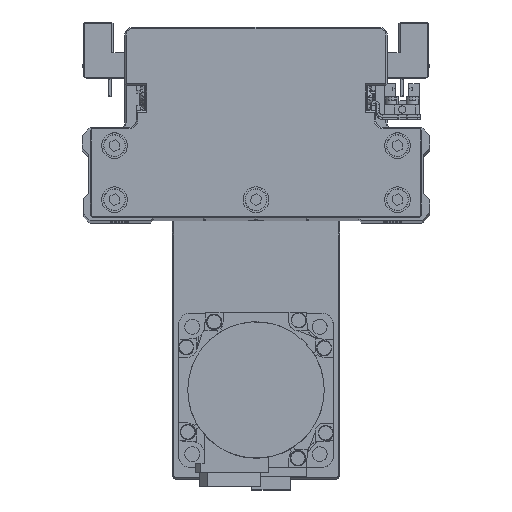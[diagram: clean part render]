
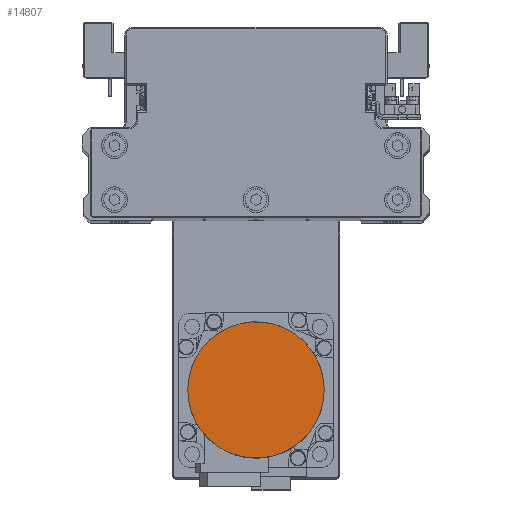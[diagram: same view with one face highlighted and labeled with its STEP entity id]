
A CAD part, top view. The second image highlights one B-rep face of the part: STEP entity #14807.
In plain terms, the highlighted planar face has unit normal (0, 0, 1) as drawn and (0, 0, -1) by its records, which use the part's own axes.
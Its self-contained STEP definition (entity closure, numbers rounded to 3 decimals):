
#505 = CARTESIAN_POINT ( 'NONE',  ( 22.998, 13.28, -109.7 ) ) ;
#724 = CARTESIAN_POINT ( 'NONE',  ( -6.871, 25.652, -109.7 ) ) ;
#932 = CARTESIAN_POINT ( 'NONE',  ( -26.5, 1.734, -109.7 ) ) ;
#2532 = CARTESIAN_POINT ( 'NONE',  ( -13.28, -22.998, -109.7 ) ) ;
#2752 = CARTESIAN_POINT ( 'NONE',  ( 17.512, -19.965, -109.7 ) ) ;
#3580 = CARTESIAN_POINT ( 'NONE',  ( 25.652, 6.871, -109.7 ) ) ;
#3773 = CARTESIAN_POINT ( 'NONE',  ( 1.734, 26.5, -109.7 ) ) ;
#3989 = CARTESIAN_POINT ( 'NONE',  ( -25.147, 8.539, -109.7 ) ) ;
#5606 = CARTESIAN_POINT ( 'NONE',  ( -19.965, -17.512, -109.7 ) ) ;
#5798 = CARTESIAN_POINT ( 'NONE',  ( 11.744, -23.819, -109.7 ) ) ;
#6648 = CARTESIAN_POINT ( 'NONE',  ( 26.5, 0., -109.7 ) ) ;
#6844 = CARTESIAN_POINT ( 'NONE',  ( 8.539, 25.147, -109.7 ) ) ;
#7036 = CARTESIAN_POINT ( 'NONE',  ( -21.07, 16.165, -109.7 ) ) ;
#8676 = CARTESIAN_POINT ( 'NONE',  ( -23.819, -11.744, -109.7 ) ) ;
#8861 = CARTESIAN_POINT ( 'NONE',  ( 3.469, -26.329, -109.7 ) ) ;
#9056 = CARTESIAN_POINT ( 'NONE',  ( 26.329, -3.469, -109.7 ) ) ;
#9836 = CARTESIAN_POINT ( 'NONE',  ( 0., 0., -109.7 ) ) ;
#9909 = CARTESIAN_POINT ( 'NONE',  ( 16.165, 21.07, -109.7 ) ) ;
#10099 = CARTESIAN_POINT ( 'NONE',  ( -16.165, 21.07, -109.7 ) ) ;
#11726 = CARTESIAN_POINT ( 'NONE',  ( -26.329, -3.469, -109.7 ) ) ;
#11933 = CARTESIAN_POINT ( 'NONE',  ( -3.469, -26.329, -109.7 ) ) ;
#12121 = CARTESIAN_POINT ( 'NONE',  ( 23.819, -11.744, -109.7 ) ) ;
#12214 = VERTEX_POINT ( 'NONE', #37926 ) ;
#12947 = CARTESIAN_POINT ( 'NONE',  ( 21.07, 16.165, -109.7 ) ) ;
#13168 = CARTESIAN_POINT ( 'NONE',  ( -8.539, 25.147, -109.7 ) ) ;
#13367 = CARTESIAN_POINT ( 'NONE',  ( -26.5, 0., -109.7 ) ) ;
#14764 = CARTESIAN_POINT ( 'NONE',  ( 26.5, 0., -109.7 ) ) ;
#14807 = ADVANCED_FACE ( 'NONE', ( #25373 ), #37777, .F. ) ;
#14981 = CARTESIAN_POINT ( 'NONE',  ( -11.744, -23.819, -109.7 ) ) ;
#15187 = CARTESIAN_POINT ( 'NONE',  ( 19.965, -17.512, -109.7 ) ) ;
#16011 = CARTESIAN_POINT ( 'NONE',  ( 25.147, 8.539, -109.7 ) ) ;
#16207 = CARTESIAN_POINT ( 'NONE',  ( -1.734, 26.5, -109.7 ) ) ;
#16435 = CARTESIAN_POINT ( 'NONE',  ( -25.652, 6.871, -109.7 ) ) ;
#18062 = CARTESIAN_POINT ( 'NONE',  ( -17.512, -19.965, -109.7 ) ) ;
#18125 = B_SPLINE_CURVE_WITH_KNOTS ( 'NONE', 3,
 ( #27253, #39665, #11726, #24207, #36628, #8676, #21143, #33566, #5606, #18062, #30497, #2532, #14981, #27467, #39877, #11933, #24412, #36820, #8861, #21331, #33750, #5798, #18273, #30712, #2752, #15187, #27673, #40067, #12121, #24600, #37007, #9056, #21534, #33966 ),
 .UNSPECIFIED., .F., .F.,
 ( 4, 2, 2, 2, 2, 2, 2, 2, 2, 2, 2, 2, 2, 2, 2, 2, 4 ),
 ( 0., 0.063, 0.125, 0.188, 0.25, 0.312, 0.375, 0.437, 0.5, 0.562, 0.625, 0.687, 0.75, 0.813, 0.875, 0.938, 1. ),
 .UNSPECIFIED. ) ;
#18273 = CARTESIAN_POINT ( 'NONE',  ( 13.28, -22.998, -109.7 ) ) ;
#19106 = CARTESIAN_POINT ( 'NONE',  ( 26.5, 1.734, -109.7 ) ) ;
#19295 = CARTESIAN_POINT ( 'NONE',  ( 6.871, 25.652, -109.7 ) ) ;
#19498 = CARTESIAN_POINT ( 'NONE',  ( -22.998, 13.28, -109.7 ) ) ;
#21143 = CARTESIAN_POINT ( 'NONE',  ( -22.998, -13.28, -109.7 ) ) ;
#21331 = CARTESIAN_POINT ( 'NONE',  ( 6.871, -25.652, -109.7 ) ) ;
#21534 = CARTESIAN_POINT ( 'NONE',  ( 26.5, -1.734, -109.7 ) ) ;
#22309 = DIRECTION ( 'NONE',  ( 0., 0., 1. ) ) ;
#22382 = CARTESIAN_POINT ( 'NONE',  ( 13.28, 22.998, -109.7 ) ) ;
#22569 = CARTESIAN_POINT ( 'NONE',  ( -17.512, 19.965, -109.7 ) ) ;
#24207 = CARTESIAN_POINT ( 'NONE',  ( -25.652, -6.871, -109.7 ) ) ;
#24378 = EDGE_CURVE ( 'NONE', #12214, #38375, #18125, .T. ) ;
#24412 = CARTESIAN_POINT ( 'NONE',  ( -1.734, -26.5, -109.7 ) ) ;
#24600 = CARTESIAN_POINT ( 'NONE',  ( 25.147, -8.539, -109.7 ) ) ;
#25373 = FACE_OUTER_BOUND ( 'NONE', #25602, .T. ) ;
#25450 = CARTESIAN_POINT ( 'NONE',  ( 19.965, 17.512, -109.7 ) ) ;
#25602 = EDGE_LOOP ( 'NONE', ( #37928, #35867 ) ) ;
#25662 = CARTESIAN_POINT ( 'NONE',  ( -11.744, 23.819, -109.7 ) ) ;
#27253 = CARTESIAN_POINT ( 'NONE',  ( -26.5, 0., -109.7 ) ) ;
#27467 = CARTESIAN_POINT ( 'NONE',  ( -8.539, -25.147, -109.7 ) ) ;
#27673 = CARTESIAN_POINT ( 'NONE',  ( 21.07, -16.165, -109.7 ) ) ;
#28488 = CARTESIAN_POINT ( 'NONE',  ( 23.819, 11.744, -109.7 ) ) ;
#28694 = CARTESIAN_POINT ( 'NONE',  ( -3.469, 26.329, -109.7 ) ) ;
#28909 = CARTESIAN_POINT ( 'NONE',  ( -26.329, 3.469, -109.7 ) ) ;
#30497 = CARTESIAN_POINT ( 'NONE',  ( -16.165, -21.07, -109.7 ) ) ;
#30712 = CARTESIAN_POINT ( 'NONE',  ( 16.165, -21.07, -109.7 ) ) ;
#31547 = CARTESIAN_POINT ( 'NONE',  ( 26.329, 3.469, -109.7 ) ) ;
#31734 = CARTESIAN_POINT ( 'NONE',  ( 3.469, 26.329, -109.7 ) ) ;
#31948 = CARTESIAN_POINT ( 'NONE',  ( -23.819, 11.744, -109.7 ) ) ;
#33566 = CARTESIAN_POINT ( 'NONE',  ( -21.07, -16.165, -109.7 ) ) ;
#33750 = CARTESIAN_POINT ( 'NONE',  ( 8.539, -25.147, -109.7 ) ) ;
#33966 = CARTESIAN_POINT ( 'NONE',  ( 26.5, 0., -109.7 ) ) ;
#34728 = DIRECTION ( 'NONE',  ( 1., 0., 0. ) ) ;
#34799 = CARTESIAN_POINT ( 'NONE',  ( 11.744, 23.819, -109.7 ) ) ;
#34991 = CARTESIAN_POINT ( 'NONE',  ( -19.965, 17.512, -109.7 ) ) ;
#35867 = ORIENTED_EDGE ( 'NONE', *, *, #24378, .F. ) ;
#36628 = CARTESIAN_POINT ( 'NONE',  ( -25.147, -8.539, -109.7 ) ) ;
#36820 = CARTESIAN_POINT ( 'NONE',  ( 1.734, -26.5, -109.7 ) ) ;
#37007 = CARTESIAN_POINT ( 'NONE',  ( 25.652, -6.871, -109.7 ) ) ;
#37350 = B_SPLINE_CURVE_WITH_KNOTS ( 'NONE', 3,
 ( #6648, #19106, #31547, #3580, #16011, #28488, #505, #12947, #25450, #37849, #9909, #22382, #34799, #6844, #19295, #31734, #3773, #16207, #28694, #724, #13168, #25662, #38051, #10099, #22569, #34991, #7036, #19498, #31948, #3989, #16435, #28909, #932, #13367 ),
 .UNSPECIFIED., .F., .F.,
 ( 4, 2, 2, 2, 2, 2, 2, 2, 2, 2, 2, 2, 2, 2, 2, 2, 4 ),
 ( 0., 0.062, 0.125, 0.187, 0.25, 0.312, 0.375, 0.437, 0.5, 0.562, 0.625, 0.687, 0.75, 0.813, 0.875, 0.938, 1. ),
 .UNSPECIFIED. ) ;
#37777 = PLANE ( 'NONE',  #38476 ) ;
#37849 = CARTESIAN_POINT ( 'NONE',  ( 17.512, 19.965, -109.7 ) ) ;
#37926 = CARTESIAN_POINT ( 'NONE',  ( -26.5, 0., -109.7 ) ) ;
#37928 = ORIENTED_EDGE ( 'NONE', *, *, #38163, .F. ) ;
#38051 = CARTESIAN_POINT ( 'NONE',  ( -13.28, 22.998, -109.7 ) ) ;
#38163 = EDGE_CURVE ( 'NONE', #38375, #12214, #37350, .T. ) ;
#38375 = VERTEX_POINT ( 'NONE', #14764 ) ;
#38476 = AXIS2_PLACEMENT_3D ( 'NONE', #9836, #22309, #34728 ) ;
#39665 = CARTESIAN_POINT ( 'NONE',  ( -26.5, -1.734, -109.7 ) ) ;
#39877 = CARTESIAN_POINT ( 'NONE',  ( -6.871, -25.652, -109.7 ) ) ;
#40067 = CARTESIAN_POINT ( 'NONE',  ( 22.998, -13.28, -109.7 ) ) ;
